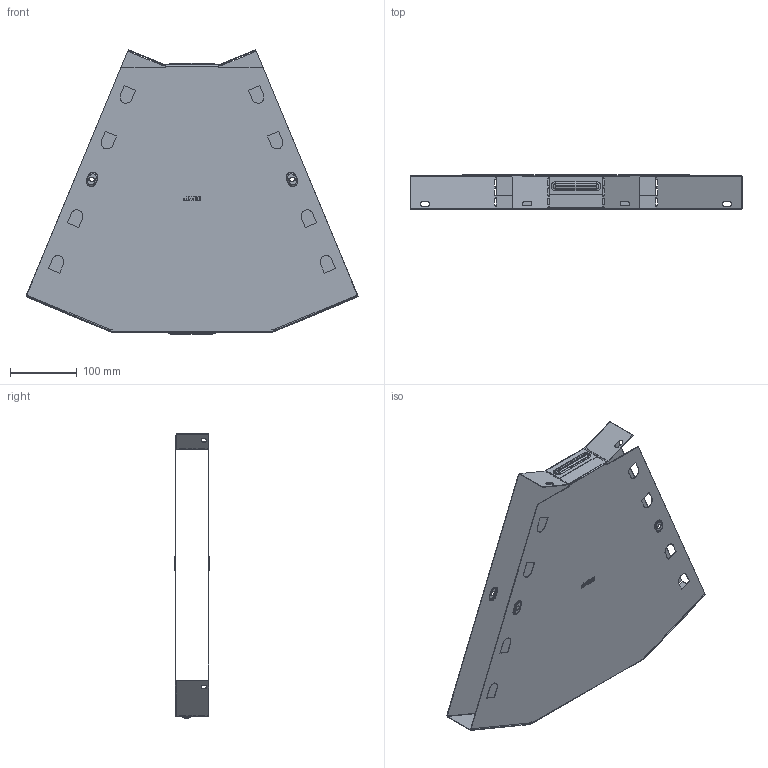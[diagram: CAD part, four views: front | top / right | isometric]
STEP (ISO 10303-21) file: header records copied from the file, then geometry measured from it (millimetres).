
FILE_DESCRIPTION (( 'STEP AP214' ), '1' );
FILE_NAME ('g4550400_捘.STEP', '2019-06-10T08:35:13', ( '砐錪賧瘔蠈錪 Windows' ), ( '' ), 'SwSTEP 2.0', 'SolidWorks 2018', '' );
FILE_SCHEMA (( 'AUTOMOTIVE_DESIGN' ));
Length unit declared in the file: millimetre
Products named in the file (1): g4550400_捘
Bounding box: 496.49 x 53.8 x 425.57 mm (x, y, z)
Volume: 259071.7 mm3; surface area: 651895.4 mm2
Topology: 2 solids, 2 shells, 528 faces, 1436 edges, 916 vertices
Faces by surface type: plane 298, cylinder 148, torus 64, bspline 18
Entity records: 17568 total; most frequent: CARTESIAN_POINT 3900, ORIENTED_EDGE 2872, DIRECTION 2814, EDGE_CURVE 1436, LINE 1008, VECTOR 1008, VERTEX_POINT 916, AXIS2_PLACEMENT_3D 903
